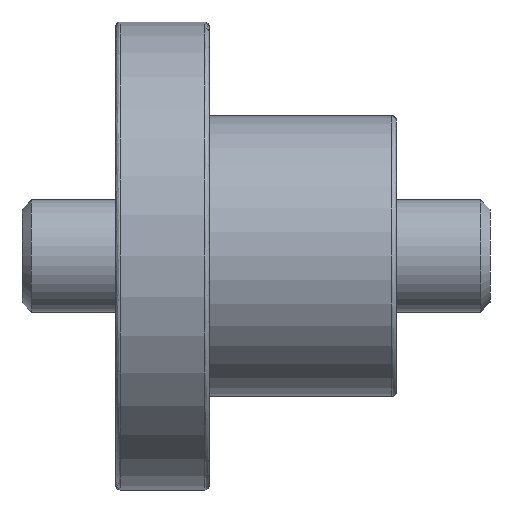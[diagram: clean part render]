
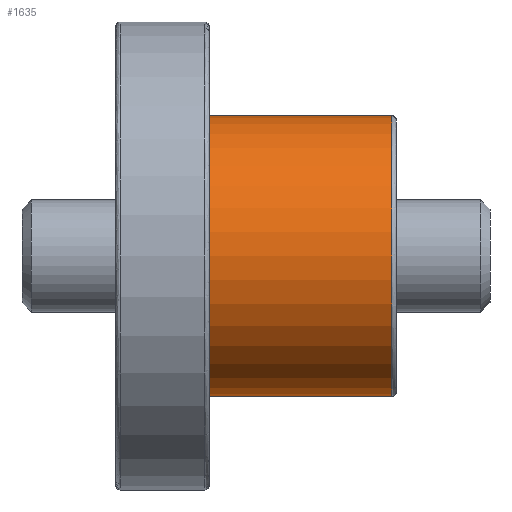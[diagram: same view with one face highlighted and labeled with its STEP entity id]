
A CAD part, front view. The second image highlights one B-rep face of the part: STEP entity #1635.
In plain terms, the highlighted cylindrical face has radius 15 mm (diameter 30 mm), a partial arc.
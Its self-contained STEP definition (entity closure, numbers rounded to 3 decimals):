
#322 = FACE_OUTER_BOUND ( 'NONE', #5609, .T. ) ;
#534 = VERTEX_POINT ( 'NONE', #1857 ) ;
#600 = AXIS2_PLACEMENT_3D ( 'NONE', #1913, #1865, #1309 ) ;
#819 = EDGE_CURVE ( 'NONE', #534, #2656, #4635, .T. ) ;
#937 = LINE ( 'NONE', #6728, #6880 ) ;
#1249 = AXIS2_PLACEMENT_3D ( 'NONE', #2643, #3776, #1520 ) ;
#1309 = DIRECTION ( 'NONE',  ( 0., 0., 1. ) ) ;
#1331 = VERTEX_POINT ( 'NONE', #3329 ) ;
#1520 = DIRECTION ( 'NONE',  ( 0., 0., 1. ) ) ;
#1635 = ADVANCED_FACE ( 'NONE', ( #322 ), #2068, .T. ) ;
#1648 = CIRCLE ( 'NONE', #600, 15. ) ;
#1857 = CARTESIAN_POINT ( 'NONE',  ( 29.5, 0., 15. ) ) ;
#1865 = DIRECTION ( 'NONE',  ( -1., 0., 0. ) ) ;
#1866 = CARTESIAN_POINT ( 'NONE',  ( 10., 0., -15. ) ) ;
#1913 = CARTESIAN_POINT ( 'NONE',  ( 10., 0., 0. ) ) ;
#1993 = DIRECTION ( 'NONE',  ( -1., 0., 0. ) ) ;
#2068 = CYLINDRICAL_SURFACE ( 'NONE', #1249, 15. ) ;
#2157 = CARTESIAN_POINT ( 'NONE',  ( 30., 0., 15. ) ) ;
#2289 = CIRCLE ( 'NONE', #4412, 15. ) ;
#2643 = CARTESIAN_POINT ( 'NONE',  ( 30., 0., 0. ) ) ;
#2656 = VERTEX_POINT ( 'NONE', #4827 ) ;
#3329 = CARTESIAN_POINT ( 'NONE',  ( 29.5, 0., -15. ) ) ;
#3639 = ORIENTED_EDGE ( 'NONE', *, *, #4497, .F. ) ;
#3776 = DIRECTION ( 'NONE',  ( -1., 0., 0. ) ) ;
#3806 = VERTEX_POINT ( 'NONE', #1866 ) ;
#4021 = ORIENTED_EDGE ( 'NONE', *, *, #819, .T. ) ;
#4078 = EDGE_CURVE ( 'NONE', #1331, #534, #2289, .T. ) ;
#4412 = AXIS2_PLACEMENT_3D ( 'NONE', #6505, #1993, #5939 ) ;
#4497 = EDGE_CURVE ( 'NONE', #3806, #2656, #1648, .T. ) ;
#4635 = LINE ( 'NONE', #2157, #5927 ) ;
#4768 = ORIENTED_EDGE ( 'NONE', *, *, #4078, .T. ) ;
#4827 = CARTESIAN_POINT ( 'NONE',  ( 10., 0., 15. ) ) ;
#5607 = EDGE_CURVE ( 'NONE', #1331, #3806, #937, .T. ) ;
#5609 = EDGE_LOOP ( 'NONE', ( #6305, #4768, #4021, #3639 ) ) ;
#5712 = DIRECTION ( 'NONE',  ( -1., 0., 0. ) ) ;
#5927 = VECTOR ( 'NONE', #6080, 1000. ) ;
#5939 = DIRECTION ( 'NONE',  ( 0., 0., 1. ) ) ;
#6080 = DIRECTION ( 'NONE',  ( -1., 0., 0. ) ) ;
#6305 = ORIENTED_EDGE ( 'NONE', *, *, #5607, .F. ) ;
#6505 = CARTESIAN_POINT ( 'NONE',  ( 29.5, 0., 0. ) ) ;
#6728 = CARTESIAN_POINT ( 'NONE',  ( 30., 0., -15. ) ) ;
#6880 = VECTOR ( 'NONE', #5712, 1000. ) ;
